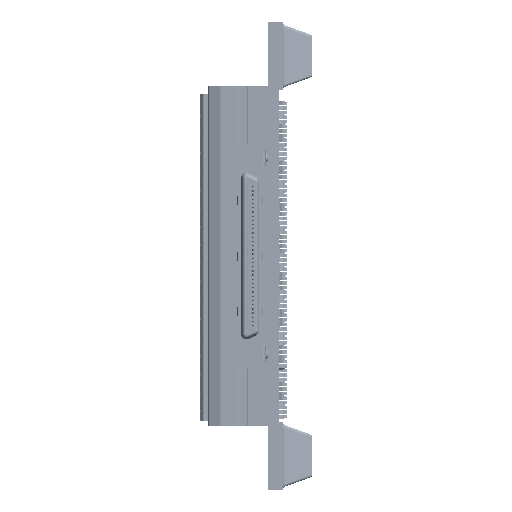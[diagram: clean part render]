
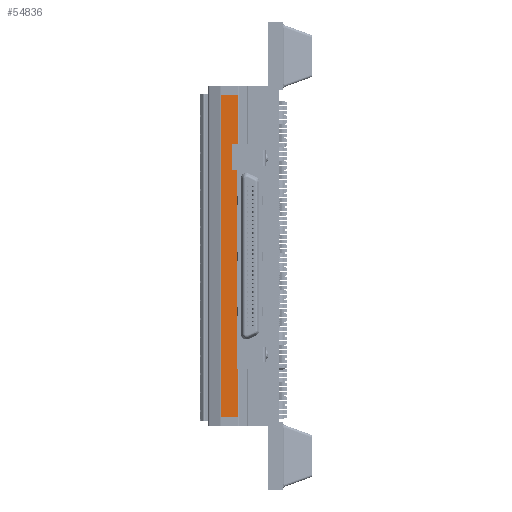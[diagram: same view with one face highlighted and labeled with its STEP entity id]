
A CAD part, left-side view. The second image highlights one B-rep face of the part: STEP entity #54836.
In plain terms, the highlighted planar face has unit normal (-1, 0, 0).
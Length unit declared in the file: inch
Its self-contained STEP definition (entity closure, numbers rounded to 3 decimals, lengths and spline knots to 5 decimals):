
#24864 = ORIENTED_EDGE ( 'NONE', *, *, #156093, .F. ) ;
#54836 = ADVANCED_FACE ( 'NONE', ( #60610 ), #80128, .T. ) ;
#56803 = CARTESIAN_POINT ( 'NONE',  ( 0., 0.3548, -0.05906 ) ) ;
#56885 = LINE ( 'NONE', #56803, #116463 ) ;
#60610 = FACE_OUTER_BOUND ( 'NONE', #337638, .T. ) ;
#78505 = ORIENTED_EDGE ( 'NONE', *, *, #106898, .F. ) ;
#80128 = PLANE ( 'NONE',  #330371 ) ;
#84525 = VERTEX_POINT ( 'NONE', #286086 ) ;
#106898 = EDGE_CURVE ( 'NONE', #202952, #419921, #397232, .T. ) ;
#116463 = VECTOR ( 'NONE', #434702, 39.37008 ) ;
#119817 = DIRECTION ( 'NONE',  ( 0., -1., 0. ) ) ;
#124479 = CARTESIAN_POINT ( 'NONE',  ( 0., 0.25769, -2.48307 ) ) ;
#156093 = EDGE_CURVE ( 'NONE', #84525, #285450, #285585, .T. ) ;
#161824 = CARTESIAN_POINT ( 'NONE',  ( 0., 0.22835, -0.0815 ) ) ;
#167537 = EDGE_CURVE ( 'NONE', #84525, #419921, #259719, .T. ) ;
#168106 = DIRECTION ( 'NONE',  ( 0., 0., 1. ) ) ;
#202952 = VERTEX_POINT ( 'NONE', #321515 ) ;
#222073 = CARTESIAN_POINT ( 'NONE',  ( 0., 0.3548, -2.48307 ) ) ;
#234523 = CARTESIAN_POINT ( 'NONE',  ( 0., 0.35827, -0.05906 ) ) ;
#236024 = VECTOR ( 'NONE', #168106, 39.37008 ) ;
#239429 = DIRECTION ( 'NONE',  ( 0., 0., 1. ) ) ;
#259719 = LINE ( 'NONE', #284041, #236024 ) ;
#284041 = CARTESIAN_POINT ( 'NONE',  ( 0., 0.22835, -0.05906 ) ) ;
#285450 = VERTEX_POINT ( 'NONE', #222073 ) ;
#285585 = LINE ( 'NONE', #124479, #333104 ) ;
#286086 = CARTESIAN_POINT ( 'NONE',  ( 0., 0.22835, -2.48307 ) ) ;
#301329 = ORIENTED_EDGE ( 'NONE', *, *, #371436, .T. ) ;
#321515 = CARTESIAN_POINT ( 'NONE',  ( 0., 0.3548, -0.0815 ) ) ;
#323733 = ORIENTED_EDGE ( 'NONE', *, *, #167537, .T. ) ;
#324750 = DIRECTION ( 'NONE',  ( 0., 1., 0. ) ) ;
#330371 = AXIS2_PLACEMENT_3D ( 'NONE', #234523, #345411, #239429 ) ;
#333104 = VECTOR ( 'NONE', #324750, 39.37008 ) ;
#337638 = EDGE_LOOP ( 'NONE', ( #301329, #24864, #323733, #78505 ) ) ;
#345411 = DIRECTION ( 'NONE',  ( -1., 0., 0. ) ) ;
#371436 = EDGE_CURVE ( 'NONE', #202952, #285450, #56885, .T. ) ;
#397232 = LINE ( 'NONE', #424616, #421055 ) ;
#419921 = VERTEX_POINT ( 'NONE', #161824 ) ;
#421055 = VECTOR ( 'NONE', #119817, 39.37008 ) ;
#424616 = CARTESIAN_POINT ( 'NONE',  ( 0., 0., -0.0815 ) ) ;
#434702 = DIRECTION ( 'NONE',  ( 0., 0., -1. ) ) ;
